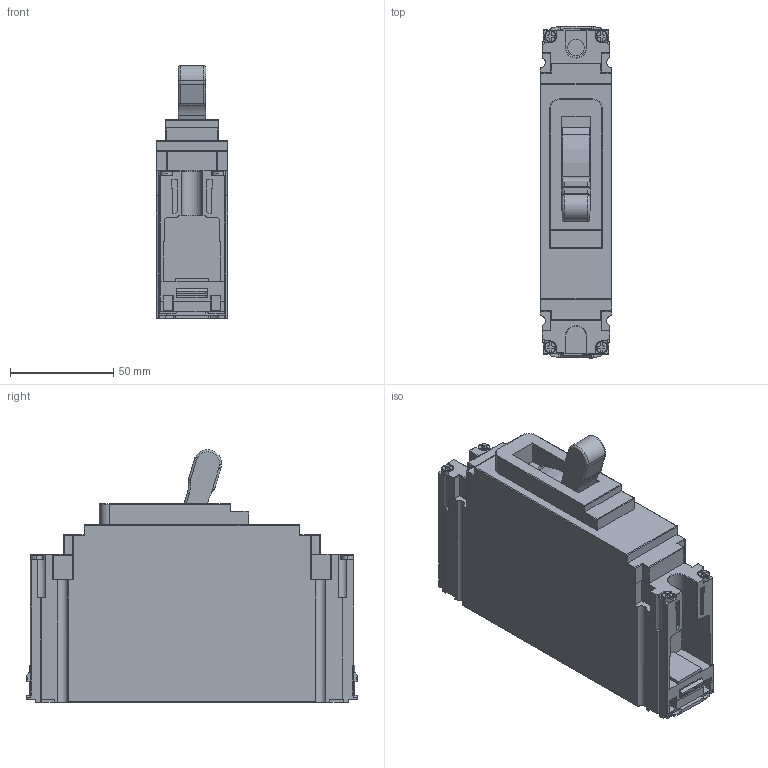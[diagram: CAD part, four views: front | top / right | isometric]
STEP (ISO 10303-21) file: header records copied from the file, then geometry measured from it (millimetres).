
FILE_DESCRIPTION((''),'2;1');
FILE_NAME('C25N1TM250_3D-SIMPLIFIED1_ASM','2020-12-11T12:36:35',('user.1'),('Schneider-Electric'),'CREO PARAMETRIC BY PTC INC, 2018300','CREO PARAMETRIC BY PTC INC, 2018300','');
FILE_SCHEMA(('CONFIG_CONTROL_DESIGN'));
Length unit declared in the file: millimetre
Products named in the file (2): C25N1TM250_3D-SIMPLIFIED; C25N1TM250_3D-SIMPLIFIED1_ASM
Assembly tree (1 placements, depth 2):
  C25N1TM250_3D-SIMPLIFIED1_ASM
    C25N1TM250_3D-SIMPLIFIED
Bounding box: 34.7 x 160.73 x 122.18 mm (x, y, z)
Volume: 406913.5 mm3; surface area: 59228.2 mm2
Topology: 1 solids, 1 shells, 622 faces, 1672 edges, 1071 vertices
Faces by surface type: plane 345, cylinder 201, extrusion 26, torus 18, bspline 16, sphere 16
Entity records: 21923 total; most frequent: CARTESIAN_POINT 6320, ORIENTED_EDGE 3344, DIRECTION 3108, EDGE_CURVE 1672, VECTOR 1166, LINE 1140, VERTEX_POINT 1071, AXIS2_PLACEMENT_3D 971
